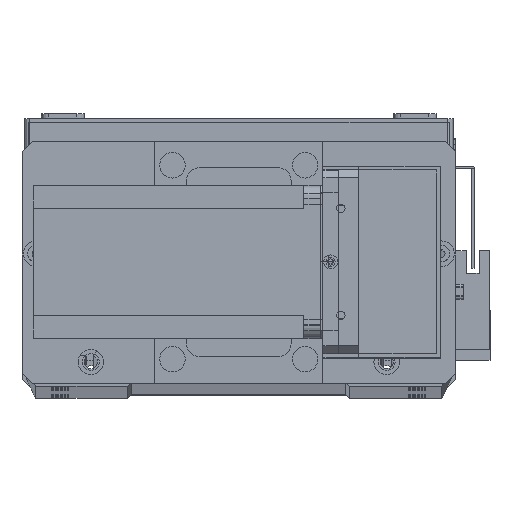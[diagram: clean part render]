
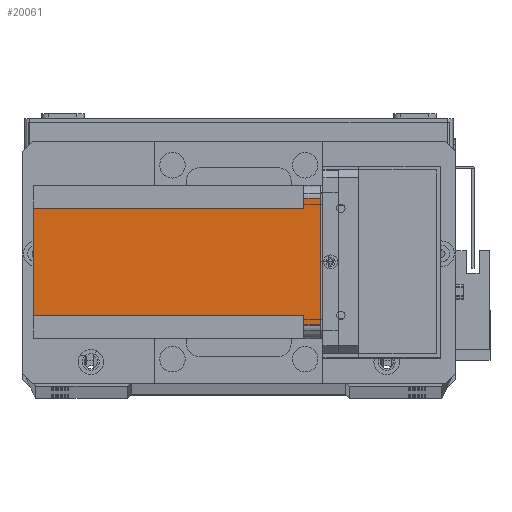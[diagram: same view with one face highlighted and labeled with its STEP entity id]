
A CAD part, top view. The second image highlights one B-rep face of the part: STEP entity #20061.
In plain terms, the highlighted planar face has unit normal (0, 0, 1) as drawn and (-1, 0, 0) by its records, which use the part's own axes.
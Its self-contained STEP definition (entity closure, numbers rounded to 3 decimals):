
#110 = VERTEX_POINT ( 'NONE', #10615 ) ;
#756 = ORIENTED_EDGE ( 'NONE', *, *, #30155, .F. ) ;
#2522 = VERTEX_POINT ( 'NONE', #6700 ) ;
#2933 = ORIENTED_EDGE ( 'NONE', *, *, #29962, .T. ) ;
#3140 = CARTESIAN_POINT ( 'NONE',  ( 0., 55., 0. ) ) ;
#3508 = DIRECTION ( 'NONE',  ( 0., -1., 0. ) ) ;
#3619 = ORIENTED_EDGE ( 'NONE', *, *, #29773, .F. ) ;
#3657 = CARTESIAN_POINT ( 'NONE',  ( 0., 51., -6.5 ) ) ;
#4491 = ORIENTED_EDGE ( 'NONE', *, *, #29719, .F. ) ;
#4512 = CARTESIAN_POINT ( 'NONE',  ( 0., 0., -6.5 ) ) ;
#4732 = CARTESIAN_POINT ( 'NONE',  ( 0., 9., -6.5 ) ) ;
#5467 = DIRECTION ( 'NONE',  ( 0., 0., 1. ) ) ;
#6062 = ORIENTED_EDGE ( 'NONE', *, *, #29683, .T. ) ;
#6700 = CARTESIAN_POINT ( 'NONE',  ( 0., 51., -112.5 ) ) ;
#7041 = ORIENTED_EDGE ( 'NONE', *, *, #29268, .F. ) ;
#7437 = LINE ( 'NONE', #17762, #12733 ) ;
#7651 = VERTEX_POINT ( 'NONE', #23931 ) ;
#8604 = ORIENTED_EDGE ( 'NONE', *, *, #29636, .T. ) ;
#8699 = LINE ( 'NONE', #20971, #28210 ) ;
#9266 = ORIENTED_EDGE ( 'NONE', *, *, #29587, .F. ) ;
#10182 = CARTESIAN_POINT ( 'NONE',  ( 0., 0., -112.5 ) ) ;
#10549 = CARTESIAN_POINT ( 'NONE',  ( 0., 60., -6.5 ) ) ;
#10615 = CARTESIAN_POINT ( 'NONE',  ( 0., 9., -112.5 ) ) ;
#11108 = VECTOR ( 'NONE', #27619, 1000. ) ;
#12733 = VECTOR ( 'NONE', #25467, 1000. ) ;
#12737 = DIRECTION ( 'NONE',  ( -1., 0., 0. ) ) ;
#13476 = DIRECTION ( 'NONE',  ( 0., -1., 0. ) ) ;
#13579 = VECTOR ( 'NONE', #13476, 1000. ) ;
#13885 = VERTEX_POINT ( 'NONE', #3657 ) ;
#15552 = CARTESIAN_POINT ( 'NONE',  ( 0., 55., -112.5 ) ) ;
#16218 = VERTEX_POINT ( 'NONE', #3140 ) ;
#17093 = LINE ( 'NONE', #10549, #29766 ) ;
#17762 = CARTESIAN_POINT ( 'NONE',  ( 0., 5., -112.5 ) ) ;
#17860 = LINE ( 'NONE', #25101, #11108 ) ;
#17898 = LINE ( 'NONE', #15552, #25487 ) ;
#18090 = VERTEX_POINT ( 'NONE', #27951 ) ;
#19154 = CARTESIAN_POINT ( 'NONE',  ( 0., 0., -112.5 ) ) ;
#20061 = ADVANCED_FACE ( 'NONE', ( #29205 ), #25441, .T. ) ;
#20971 = CARTESIAN_POINT ( 'NONE',  ( 0., 51., -112.5 ) ) ;
#21909 = LINE ( 'NONE', #4512, #28625 ) ;
#22689 = VECTOR ( 'NONE', #3508, 1000. ) ;
#22697 = DIRECTION ( 'NONE',  ( 0., 1., 0. ) ) ;
#23508 = LINE ( 'NONE', #19154, #22689 ) ;
#23931 = CARTESIAN_POINT ( 'NONE',  ( 0., 55., -6.5 ) ) ;
#25101 = CARTESIAN_POINT ( 'NONE',  ( 0., 9., -112.5 ) ) ;
#25250 = AXIS2_PLACEMENT_3D ( 'NONE', #10182, #12737, #30438 ) ;
#25441 = PLANE ( 'NONE',  #25250 ) ;
#25467 = DIRECTION ( 'NONE',  ( 0., 0., 1. ) ) ;
#25487 = VECTOR ( 'NONE', #33197, 1000. ) ;
#26685 = EDGE_LOOP ( 'NONE', ( #9266, #8604, #7041, #6062, #4491, #3619, #2933, #756 ) ) ;
#27528 = VERTEX_POINT ( 'NONE', #4732 ) ;
#27607 = VERTEX_POINT ( 'NONE', #33173 ) ;
#27619 = DIRECTION ( 'NONE',  ( 0., 0., -1. ) ) ;
#27951 = CARTESIAN_POINT ( 'NONE',  ( 0., 5., 0. ) ) ;
#28210 = VECTOR ( 'NONE', #5467, 1000. ) ;
#28293 = DIRECTION ( 'NONE',  ( 0., 1., 0. ) ) ;
#28625 = VECTOR ( 'NONE', #22697, 1000. ) ;
#29205 = FACE_OUTER_BOUND ( 'NONE', #26685, .T. ) ;
#29268 = EDGE_CURVE ( 'NONE', #16218, #18090, #31358, .T. ) ;
#29587 = EDGE_CURVE ( 'NONE', #27607, #27528, #21909, .T. ) ;
#29636 = EDGE_CURVE ( 'NONE', #27607, #18090, #7437, .T. ) ;
#29683 = EDGE_CURVE ( 'NONE', #16218, #7651, #17898, .T. ) ;
#29719 = EDGE_CURVE ( 'NONE', #13885, #7651, #17093, .T. ) ;
#29766 = VECTOR ( 'NONE', #28293, 1000. ) ;
#29773 = EDGE_CURVE ( 'NONE', #2522, #13885, #8699, .T. ) ;
#29962 = EDGE_CURVE ( 'NONE', #2522, #110, #23508, .T. ) ;
#30155 = EDGE_CURVE ( 'NONE', #27528, #110, #17860, .T. ) ;
#30438 = DIRECTION ( 'NONE',  ( 0., -1., 0. ) ) ;
#31148 = CARTESIAN_POINT ( 'NONE',  ( 0., 0., 0. ) ) ;
#31358 = LINE ( 'NONE', #31148, #13579 ) ;
#33173 = CARTESIAN_POINT ( 'NONE',  ( 0., 5., -6.5 ) ) ;
#33197 = DIRECTION ( 'NONE',  ( 0., 0., -1. ) ) ;
